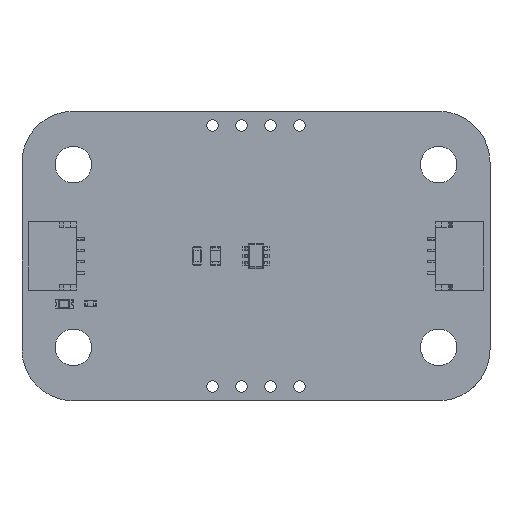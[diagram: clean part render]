
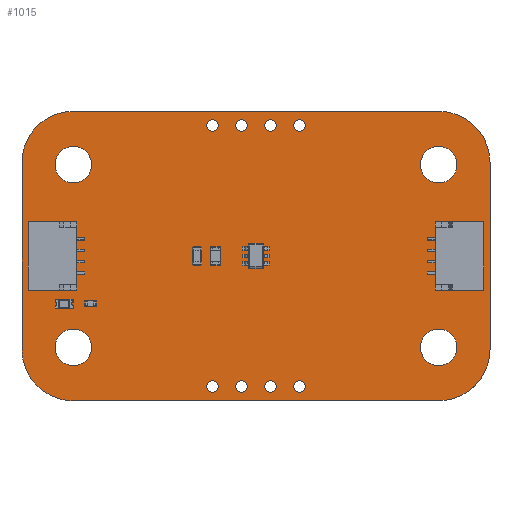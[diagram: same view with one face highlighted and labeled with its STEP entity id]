
A CAD part, top view. The second image highlights one B-rep face of the part: STEP entity #1015.
In plain terms, the highlighted planar face has unit normal (0, 0, 1).
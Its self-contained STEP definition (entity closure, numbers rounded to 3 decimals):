
#80 = VERTEX_POINT('',#81);
#81 = CARTESIAN_POINT('',(0.,20.86,1.606));
#87 = EDGE_CURVE('',#80,#88,#90,.T.);
#88 = VERTEX_POINT('',#89);
#89 = CARTESIAN_POINT('',(0.,4.5,1.606));
#90 = LINE('',#91,#92);
#91 = CARTESIAN_POINT('',(0.,20.86,1.606));
#92 = VECTOR('',#93,1.);
#93 = DIRECTION('',(0.,-1.,0.));
#120 = VERTEX_POINT('',#121);
#121 = CARTESIAN_POINT('',(0.,20.86,
    1.606));
#127 = EDGE_CURVE('',#120,#80,#128,.T.);
#128 = CIRCLE('',#129,4.5);
#129 = AXIS2_PLACEMENT_3D('',#130,#131,#132);
#130 = CARTESIAN_POINT('',(4.5,20.86,1.606));
#131 = DIRECTION('',(0.,0.,1.));
#132 = DIRECTION('',(0.,1.,-0.));
#153 = VERTEX_POINT('',#154);
#154 = CARTESIAN_POINT('',(0.287,22.44,1.606));
#160 = EDGE_CURVE('',#153,#120,#161,.T.);
#161 = CIRCLE('',#162,4.5);
#162 = AXIS2_PLACEMENT_3D('',#163,#164,#165);
#163 = CARTESIAN_POINT('',(4.5,20.86,1.606));
#164 = DIRECTION('',(0.,0.,1.));
#165 = DIRECTION('',(0.,1.,-0.));
#186 = VERTEX_POINT('',#187);
#187 = CARTESIAN_POINT('',(1.398,24.12,1.606));
#193 = EDGE_CURVE('',#186,#153,#194,.T.);
#194 = CIRCLE('',#195,4.5);
#195 = AXIS2_PLACEMENT_3D('',#196,#197,#198);
#196 = CARTESIAN_POINT('',(4.5,20.86,1.606));
#197 = DIRECTION('',(0.,0.,1.));
#198 = DIRECTION('',(1.,0.,-0.));
#219 = VERTEX_POINT('',#220);
#220 = CARTESIAN_POINT('',(4.5,25.36,1.606));
#226 = EDGE_CURVE('',#219,#186,#227,.T.);
#227 = CIRCLE('',#228,4.5);
#228 = AXIS2_PLACEMENT_3D('',#229,#230,#231);
#229 = CARTESIAN_POINT('',(4.5,20.86,1.606));
#230 = DIRECTION('',(0.,0.,1.));
#231 = DIRECTION('',(0.,1.,-0.));
#252 = VERTEX_POINT('',#253);
#253 = CARTESIAN_POINT('',(36.5,25.36,1.606));
#259 = EDGE_CURVE('',#252,#219,#260,.T.);
#260 = LINE('',#261,#262);
#261 = CARTESIAN_POINT('',(36.5,25.36,1.606));
#262 = VECTOR('',#263,1.);
#263 = DIRECTION('',(-1.,0.,0.));
#283 = VERTEX_POINT('',#284);
#284 = CARTESIAN_POINT('',(41.,20.86,1.606));
#290 = EDGE_CURVE('',#283,#252,#291,.T.);
#291 = CIRCLE('',#292,4.5);
#292 = AXIS2_PLACEMENT_3D('',#293,#294,#295);
#293 = CARTESIAN_POINT('',(36.5,20.86,1.606));
#294 = DIRECTION('',(0.,0.,1.));
#295 = DIRECTION('',(1.,0.,0.));
#316 = VERTEX_POINT('',#317);
#317 = CARTESIAN_POINT('',(41.,4.5,1.606));
#323 = EDGE_CURVE('',#316,#283,#324,.T.);
#324 = LINE('',#325,#326);
#325 = CARTESIAN_POINT('',(41.,4.5,1.606));
#326 = VECTOR('',#327,1.);
#327 = DIRECTION('',(0.,1.,0.));
#347 = VERTEX_POINT('',#348);
#348 = CARTESIAN_POINT('',(40.463,2.368,1.606));
#354 = EDGE_CURVE('',#347,#316,#355,.T.);
#355 = CIRCLE('',#356,4.5);
#356 = AXIS2_PLACEMENT_3D('',#357,#358,#359);
#357 = CARTESIAN_POINT('',(36.5,4.5,1.606));
#358 = DIRECTION('',(0.,0.,1.));
#359 = DIRECTION('',(0.,-1.,0.));
#380 = VERTEX_POINT('',#381);
#381 = CARTESIAN_POINT('',(37.893,0.221,1.606));
#387 = EDGE_CURVE('',#380,#347,#388,.T.);
#388 = CIRCLE('',#389,4.5);
#389 = AXIS2_PLACEMENT_3D('',#390,#391,#392);
#390 = CARTESIAN_POINT('',(36.5,4.5,1.606));
#391 = DIRECTION('',(0.,0.,1.));
#392 = DIRECTION('',(1.,0.,-0.));
#413 = VERTEX_POINT('',#414);
#414 = CARTESIAN_POINT('',(36.5,0.,1.606));
#420 = EDGE_CURVE('',#413,#380,#421,.T.);
#421 = CIRCLE('',#422,4.5);
#422 = AXIS2_PLACEMENT_3D('',#423,#424,#425);
#423 = CARTESIAN_POINT('',(36.5,4.5,1.606));
#424 = DIRECTION('',(0.,0.,1.));
#425 = DIRECTION('',(0.,-1.,0.));
#446 = VERTEX_POINT('',#447);
#447 = CARTESIAN_POINT('',(4.5,0.,1.606));
#453 = EDGE_CURVE('',#446,#413,#454,.T.);
#454 = LINE('',#455,#456);
#455 = CARTESIAN_POINT('',(4.5,0.,1.606));
#456 = VECTOR('',#457,1.);
#457 = DIRECTION('',(1.,0.,0.));
#477 = VERTEX_POINT('',#478);
#478 = CARTESIAN_POINT('',(3.005,0.256,1.606));
#484 = EDGE_CURVE('',#477,#446,#485,.T.);
#485 = CIRCLE('',#486,4.5);
#486 = AXIS2_PLACEMENT_3D('',#487,#488,#489);
#487 = CARTESIAN_POINT('',(4.5,4.5,1.606));
#488 = DIRECTION('',(0.,0.,1.));
#489 = DIRECTION('',(-1.,0.,0.));
#510 = VERTEX_POINT('',#511);
#511 = CARTESIAN_POINT('',(0.063,3.75,1.606)
  );
#517 = EDGE_CURVE('',#510,#477,#518,.T.);
#518 = CIRCLE('',#519,4.5);
#519 = AXIS2_PLACEMENT_3D('',#520,#521,#522);
#520 = CARTESIAN_POINT('',(4.5,4.5,1.606));
#521 = DIRECTION('',(0.,0.,1.));
#522 = DIRECTION('',(1.,0.,-0.));
#541 = EDGE_CURVE('',#88,#510,#542,.T.);
#542 = CIRCLE('',#543,4.5);
#543 = AXIS2_PLACEMENT_3D('',#544,#545,#546);
#544 = CARTESIAN_POINT('',(4.5,4.5,1.606));
#545 = DIRECTION('',(0.,0.,1.));
#546 = DIRECTION('',(-1.,0.,0.));
#567 = VERTEX_POINT('',#568);
#568 = CARTESIAN_POINT('',(6.1,4.68,1.606));
#574 = EDGE_CURVE('',#567,#567,#575,.T.);
#575 = CIRCLE('',#576,1.6);
#576 = AXIS2_PLACEMENT_3D('',#577,#578,#579);
#577 = CARTESIAN_POINT('',(4.5,4.68,1.606));
#578 = DIRECTION('',(0.,0.,1.));
#579 = DIRECTION('',(1.,0.,-0.));
#600 = VERTEX_POINT('',#601);
#601 = CARTESIAN_POINT('',(17.19,1.25,1.606));
#607 = EDGE_CURVE('',#600,#600,#608,.T.);
#608 = CIRCLE('',#609,0.5);
#609 = AXIS2_PLACEMENT_3D('',#610,#611,#612);
#610 = CARTESIAN_POINT('',(16.69,1.25,1.606));
#611 = DIRECTION('',(0.,0.,1.));
#612 = DIRECTION('',(1.,0.,-0.));
#633 = VERTEX_POINT('',#634);
#634 = CARTESIAN_POINT('',(19.73,1.25,1.606));
#640 = EDGE_CURVE('',#633,#633,#641,.T.);
#641 = CIRCLE('',#642,0.5);
#642 = AXIS2_PLACEMENT_3D('',#643,#644,#645);
#643 = CARTESIAN_POINT('',(19.23,1.25,1.606));
#644 = DIRECTION('',(0.,0.,1.));
#645 = DIRECTION('',(1.,0.,-0.));
#666 = VERTEX_POINT('',#667);
#667 = CARTESIAN_POINT('',(22.27,1.25,1.606));
#673 = EDGE_CURVE('',#666,#666,#674,.T.);
#674 = CIRCLE('',#675,0.5);
#675 = AXIS2_PLACEMENT_3D('',#676,#677,#678);
#676 = CARTESIAN_POINT('',(21.77,1.25,1.606));
#677 = DIRECTION('',(0.,0.,1.));
#678 = DIRECTION('',(1.,0.,-0.));
#699 = VERTEX_POINT('',#700);
#700 = CARTESIAN_POINT('',(24.81,1.25,1.606));
#706 = EDGE_CURVE('',#699,#699,#707,.T.);
#707 = CIRCLE('',#708,0.5);
#708 = AXIS2_PLACEMENT_3D('',#709,#710,#711);
#709 = CARTESIAN_POINT('',(24.31,1.25,1.606));
#710 = DIRECTION('',(0.,0.,1.));
#711 = DIRECTION('',(1.,0.,-0.));
#732 = VERTEX_POINT('',#733);
#733 = CARTESIAN_POINT('',(38.1,4.68,1.606));
#739 = EDGE_CURVE('',#732,#732,#740,.T.);
#740 = CIRCLE('',#741,1.6);
#741 = AXIS2_PLACEMENT_3D('',#742,#743,#744);
#742 = CARTESIAN_POINT('',(36.5,4.68,1.606));
#743 = DIRECTION('',(0.,0.,1.));
#744 = DIRECTION('',(1.,0.,-0.));
#765 = VERTEX_POINT('',#766);
#766 = CARTESIAN_POINT('',(6.1,20.68,1.606));
#772 = EDGE_CURVE('',#765,#765,#773,.T.);
#773 = CIRCLE('',#774,1.6);
#774 = AXIS2_PLACEMENT_3D('',#775,#776,#777);
#775 = CARTESIAN_POINT('',(4.5,20.68,1.606));
#776 = DIRECTION('',(0.,0.,1.));
#777 = DIRECTION('',(1.,0.,-0.));
#798 = VERTEX_POINT('',#799);
#799 = CARTESIAN_POINT('',(17.19,24.11,1.606));
#805 = EDGE_CURVE('',#798,#798,#806,.T.);
#806 = CIRCLE('',#807,0.5);
#807 = AXIS2_PLACEMENT_3D('',#808,#809,#810);
#808 = CARTESIAN_POINT('',(16.69,24.11,1.606));
#809 = DIRECTION('',(0.,0.,1.));
#810 = DIRECTION('',(1.,0.,-0.));
#831 = VERTEX_POINT('',#832);
#832 = CARTESIAN_POINT('',(19.73,24.11,1.606));
#838 = EDGE_CURVE('',#831,#831,#839,.T.);
#839 = CIRCLE('',#840,0.5);
#840 = AXIS2_PLACEMENT_3D('',#841,#842,#843);
#841 = CARTESIAN_POINT('',(19.23,24.11,1.606));
#842 = DIRECTION('',(0.,0.,1.));
#843 = DIRECTION('',(1.,0.,-0.));
#864 = VERTEX_POINT('',#865);
#865 = CARTESIAN_POINT('',(22.27,24.11,1.606));
#871 = EDGE_CURVE('',#864,#864,#872,.T.);
#872 = CIRCLE('',#873,0.5);
#873 = AXIS2_PLACEMENT_3D('',#874,#875,#876);
#874 = CARTESIAN_POINT('',(21.77,24.11,1.606));
#875 = DIRECTION('',(0.,0.,1.));
#876 = DIRECTION('',(1.,0.,-0.));
#897 = VERTEX_POINT('',#898);
#898 = CARTESIAN_POINT('',(24.81,24.11,1.606));
#904 = EDGE_CURVE('',#897,#897,#905,.T.);
#905 = CIRCLE('',#906,0.5);
#906 = AXIS2_PLACEMENT_3D('',#907,#908,#909);
#907 = CARTESIAN_POINT('',(24.31,24.11,1.606));
#908 = DIRECTION('',(0.,0.,1.));
#909 = DIRECTION('',(1.,0.,-0.));
#930 = VERTEX_POINT('',#931);
#931 = CARTESIAN_POINT('',(38.1,20.68,1.606));
#937 = EDGE_CURVE('',#930,#930,#938,.T.);
#938 = CIRCLE('',#939,1.6);
#939 = AXIS2_PLACEMENT_3D('',#940,#941,#942);
#940 = CARTESIAN_POINT('',(36.5,20.68,1.606));
#941 = DIRECTION('',(0.,0.,1.));
#942 = DIRECTION('',(1.,0.,-0.));
#1015 = ADVANCED_FACE('',(#1016,#1033,#1036,#1039,#1042,#1045,#1048,
    #1051,#1054,#1057,#1060,#1063,#1066),#1069,.T.);
#1016 = FACE_BOUND('',#1017,.T.);
#1017 = EDGE_LOOP('',(#1018,#1019,#1020,#1021,#1022,#1023,#1024,#1025,
    #1026,#1027,#1028,#1029,#1030,#1031,#1032));
#1018 = ORIENTED_EDGE('',*,*,#87,.T.);
#1019 = ORIENTED_EDGE('',*,*,#541,.T.);
#1020 = ORIENTED_EDGE('',*,*,#517,.T.);
#1021 = ORIENTED_EDGE('',*,*,#484,.T.);
#1022 = ORIENTED_EDGE('',*,*,#453,.T.);
#1023 = ORIENTED_EDGE('',*,*,#420,.T.);
#1024 = ORIENTED_EDGE('',*,*,#387,.T.);
#1025 = ORIENTED_EDGE('',*,*,#354,.T.);
#1026 = ORIENTED_EDGE('',*,*,#323,.T.);
#1027 = ORIENTED_EDGE('',*,*,#290,.T.);
#1028 = ORIENTED_EDGE('',*,*,#259,.T.);
#1029 = ORIENTED_EDGE('',*,*,#226,.T.);
#1030 = ORIENTED_EDGE('',*,*,#193,.T.);
#1031 = ORIENTED_EDGE('',*,*,#160,.T.);
#1032 = ORIENTED_EDGE('',*,*,#127,.T.);
#1033 = FACE_BOUND('',#1034,.T.);
#1034 = EDGE_LOOP('',(#1035));
#1035 = ORIENTED_EDGE('',*,*,#574,.F.);
#1036 = FACE_BOUND('',#1037,.T.);
#1037 = EDGE_LOOP('',(#1038));
#1038 = ORIENTED_EDGE('',*,*,#607,.F.);
#1039 = FACE_BOUND('',#1040,.T.);
#1040 = EDGE_LOOP('',(#1041));
#1041 = ORIENTED_EDGE('',*,*,#640,.F.);
#1042 = FACE_BOUND('',#1043,.T.);
#1043 = EDGE_LOOP('',(#1044));
#1044 = ORIENTED_EDGE('',*,*,#673,.F.);
#1045 = FACE_BOUND('',#1046,.T.);
#1046 = EDGE_LOOP('',(#1047));
#1047 = ORIENTED_EDGE('',*,*,#706,.F.);
#1048 = FACE_BOUND('',#1049,.T.);
#1049 = EDGE_LOOP('',(#1050));
#1050 = ORIENTED_EDGE('',*,*,#739,.F.);
#1051 = FACE_BOUND('',#1052,.T.);
#1052 = EDGE_LOOP('',(#1053));
#1053 = ORIENTED_EDGE('',*,*,#772,.F.);
#1054 = FACE_BOUND('',#1055,.T.);
#1055 = EDGE_LOOP('',(#1056));
#1056 = ORIENTED_EDGE('',*,*,#805,.F.);
#1057 = FACE_BOUND('',#1058,.T.);
#1058 = EDGE_LOOP('',(#1059));
#1059 = ORIENTED_EDGE('',*,*,#838,.F.);
#1060 = FACE_BOUND('',#1061,.T.);
#1061 = EDGE_LOOP('',(#1062));
#1062 = ORIENTED_EDGE('',*,*,#871,.F.);
#1063 = FACE_BOUND('',#1064,.T.);
#1064 = EDGE_LOOP('',(#1065));
#1065 = ORIENTED_EDGE('',*,*,#904,.F.);
#1066 = FACE_BOUND('',#1067,.T.);
#1067 = EDGE_LOOP('',(#1068));
#1068 = ORIENTED_EDGE('',*,*,#937,.F.);
#1069 = PLANE('',#1070);
#1070 = AXIS2_PLACEMENT_3D('',#1071,#1072,#1073);
#1071 = CARTESIAN_POINT('',(20.5,12.68,1.606));
#1072 = DIRECTION('',(0.,0.,1.));
#1073 = DIRECTION('',(1.,0.,-0.));
